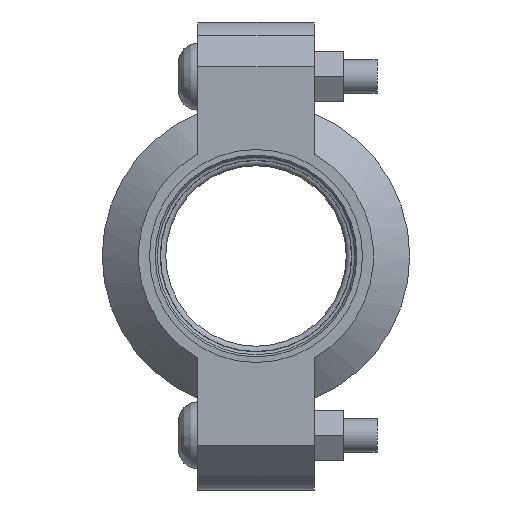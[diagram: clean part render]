
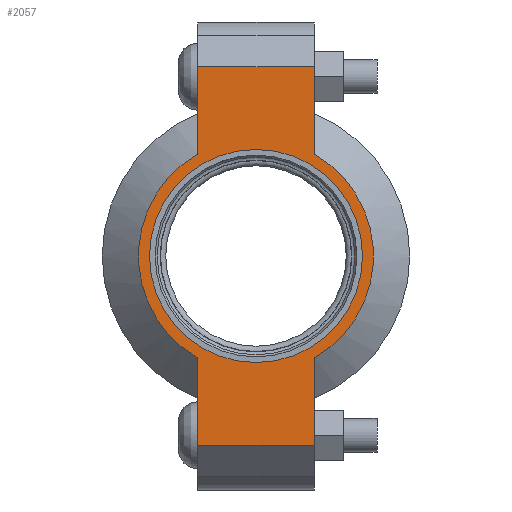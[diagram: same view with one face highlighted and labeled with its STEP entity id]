
A CAD part, left-side view. The second image highlights one B-rep face of the part: STEP entity #2057.
In plain terms, the highlighted planar face has unit normal (-1, 0, 0) as drawn and (0, 0, 1) by its records, which use the part's own axes.
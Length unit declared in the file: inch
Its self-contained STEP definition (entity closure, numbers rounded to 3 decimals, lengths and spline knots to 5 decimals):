
#190=LINE('',#3668,#289);
#198=LINE('',#3704,#297);
#205=LINE('',#3725,#304);
#214=LINE('',#3757,#313);
#215=LINE('',#3761,#314);
#216=LINE('',#3763,#315);
#289=VECTOR('',#3002,0.3937);
#297=VECTOR('',#3018,0.3937);
#304=VECTOR('',#3037,0.3937);
#313=VECTOR('',#3062,0.3937);
#314=VECTOR('',#3067,0.3937);
#315=VECTOR('',#3068,0.3937);
#375=FACE_BOUND('',#645,.T.);
#421=PLANE('',#2422);
#517=FACE_OUTER_BOUND('',#644,.T.);
#644=EDGE_LOOP('',(#1786,#1787,#1788,#1789,#1790,#1791,#1792,#1793));
#645=EDGE_LOOP('',(#1794));
#792=CIRCLE('',#2364,1.1875);
#818=CIRCLE('',#2423,1.31);
#819=CIRCLE('',#2424,1.31);
#943=VERTEX_POINT('',#3484);
#986=VERTEX_POINT('',#3665);
#987=VERTEX_POINT('',#3667);
#998=VERTEX_POINT('',#3699);
#999=VERTEX_POINT('',#3703);
#1006=VERTEX_POINT('',#3722);
#1007=VERTEX_POINT('',#3724);
#1017=VERTEX_POINT('',#3760);
#1018=VERTEX_POINT('',#3762);
#1180=EDGE_CURVE('',#943,#943,#792,.T.);
#1241=EDGE_CURVE('',#987,#986,#190,.T.);
#1255=EDGE_CURVE('',#999,#998,#198,.T.);
#1265=EDGE_CURVE('',#1007,#1006,#205,.T.);
#1280=EDGE_CURVE('',#999,#986,#214,.T.);
#1281=EDGE_CURVE('',#998,#1007,#818,.T.);
#1282=EDGE_CURVE('',#1017,#1006,#215,.T.);
#1283=EDGE_CURVE('',#1017,#1018,#216,.T.);
#1284=EDGE_CURVE('',#1018,#987,#819,.T.);
#1786=ORIENTED_EDGE('',*,*,#1280,.F.);
#1787=ORIENTED_EDGE('',*,*,#1255,.T.);
#1788=ORIENTED_EDGE('',*,*,#1281,.T.);
#1789=ORIENTED_EDGE('',*,*,#1265,.T.);
#1790=ORIENTED_EDGE('',*,*,#1282,.F.);
#1791=ORIENTED_EDGE('',*,*,#1283,.T.);
#1792=ORIENTED_EDGE('',*,*,#1284,.T.);
#1793=ORIENTED_EDGE('',*,*,#1241,.T.);
#1794=ORIENTED_EDGE('',*,*,#1180,.T.);
#2057=ADVANCED_FACE('',(#517,#375),#421,.T.);
#2364=AXIS2_PLACEMENT_3D('',#3486,#2878,#2879);
#2422=AXIS2_PLACEMENT_3D('',#3758,#3063,#3064);
#2423=AXIS2_PLACEMENT_3D('',#3759,#3065,#3066);
#2424=AXIS2_PLACEMENT_3D('',#3764,#3069,#3070);
#2878=DIRECTION('center_axis',(0.,0.,-1.));
#2879=DIRECTION('ref_axis',(1.,0.,0.));
#3002=DIRECTION('',(1.,0.,0.));
#3018=DIRECTION('',(-1.,0.,0.));
#3037=DIRECTION('',(-1.,0.,0.));
#3062=DIRECTION('',(0.,-1.,0.));
#3063=DIRECTION('center_axis',(0.,0.,1.));
#3064=DIRECTION('ref_axis',(-1.,0.,0.));
#3065=DIRECTION('center_axis',(0.,0.,1.));
#3066=DIRECTION('ref_axis',(1.,0.,0.));
#3067=DIRECTION('',(0.,1.,0.));
#3068=DIRECTION('',(1.,0.,0.));
#3069=DIRECTION('center_axis',(0.,0.,1.));
#3070=DIRECTION('ref_axis',(1.,0.,0.));
#3484=CARTESIAN_POINT('',(-1.1875,0.,0.94));
#3486=CARTESIAN_POINT('Origin',(0.,0.,0.94));
#3665=CARTESIAN_POINT('',(2.11,-0.65,0.94));
#3667=CARTESIAN_POINT('',(1.13737,-0.65,0.94));
#3668=CARTESIAN_POINT('',(2.61,-0.65,0.94));
#3699=CARTESIAN_POINT('',(1.13737,0.65,0.94));
#3703=CARTESIAN_POINT('',(2.11,0.65,0.94));
#3704=CARTESIAN_POINT('',(-2.61,0.65,0.94));
#3722=CARTESIAN_POINT('',(-2.11,0.65,0.94));
#3724=CARTESIAN_POINT('',(-1.13737,0.65,0.94));
#3725=CARTESIAN_POINT('',(-2.61,0.65,0.94));
#3757=CARTESIAN_POINT('',(2.11,-0.325,0.94));
#3758=CARTESIAN_POINT('Origin',(0.,0.,
0.94));
#3759=CARTESIAN_POINT('Origin',(0.,0.,0.94));
#3760=CARTESIAN_POINT('',(-2.11,-0.65,0.94));
#3761=CARTESIAN_POINT('',(-2.11,0.325,0.94));
#3762=CARTESIAN_POINT('',(-1.13737,-0.65,0.94));
#3763=CARTESIAN_POINT('',(2.61,-0.65,0.94));
#3764=CARTESIAN_POINT('Origin',(0.,0.,0.94));
